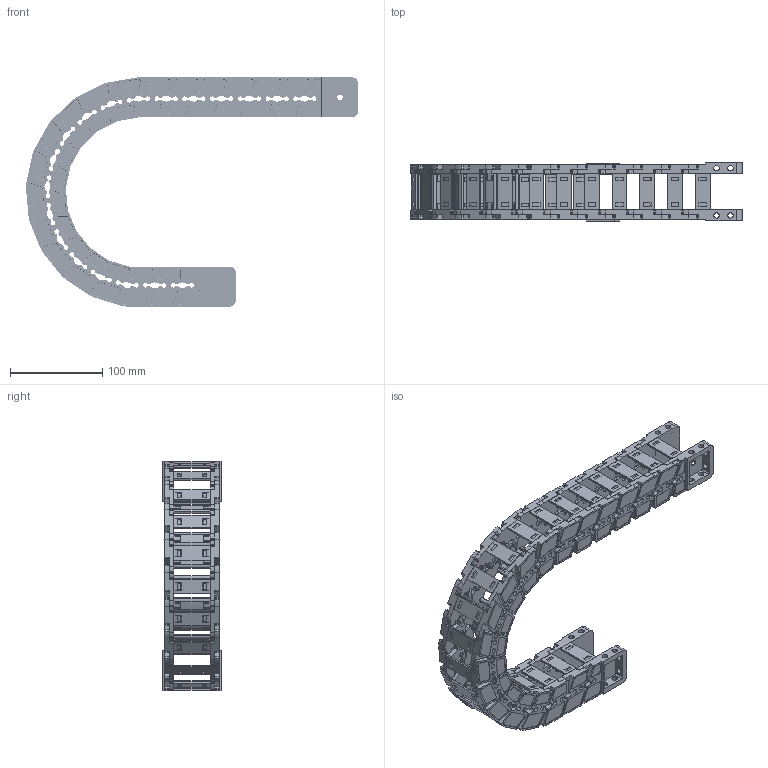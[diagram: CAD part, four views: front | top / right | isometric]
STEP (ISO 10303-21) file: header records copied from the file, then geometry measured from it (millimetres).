
FILE_DESCRIPTION((''),'2;1');
FILE_NAME('JY-35X38-R100_ASM','2025-01-05T19:21:10',('admin'),(''),'CREO PARAMETRIC BY PTC INC, 2021023','CREO PARAMETRIC BY PTC INC, 2021023','');
FILE_SCHEMA(('CONFIG_CONTROL_DESIGN'));
Length unit declared in the file: millimetre
Products named in the file (11): 35XL-L; YP; 35XL-R; ASM0001_ASM; 35-LTT-A-L; 35-LTT-A-R; 35XL-LTT-A_ASM; 35-LTT-B-L; 35-LTT-B-R; 35XL-LTT-B_ASM; JY-35X38-R100_ASM
Assembly tree (32 placements, depth 3):
  JY-35X38-R100_ASM
    ASM0001_ASM  x18
      35XL-L
      YP
      35XL-R
    35XL-LTT-A_ASM
      35-LTT-A-L
      YP  x2
      35-LTT-A-R
    35XL-LTT-B_ASM
      35-LTT-B-L
      YP  x2
      35-LTT-B-R
Bounding box: 359.13 x 63 x 247.81 mm (x, y, z)
Volume: 509288.5 mm3; surface area: 297644.8 mm2
Topology: 80 solids, 80 shells, 6520 faces, 19542 edges, 13190 vertices
Faces by surface type: plane 3688, cylinder 2148, cone 418, extrusion 152, bspline 114
Entity records: 27866 total; most frequent: CARTESIAN_POINT 6165, ORIENTED_EDGE 4640, DIRECTION 4359, EDGE_CURVE 2320, VERTEX_POINT 1568, AXIS2_PLACEMENT_3D 1471, VECTOR 1417, LINE 1401
